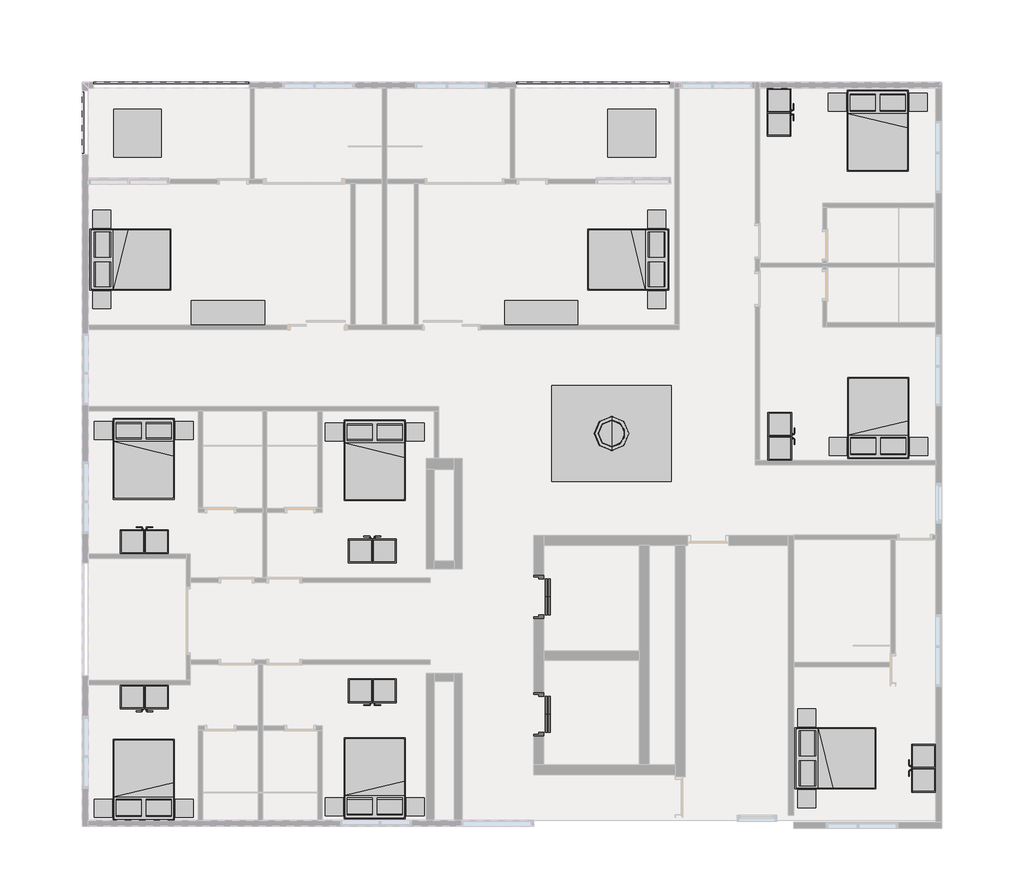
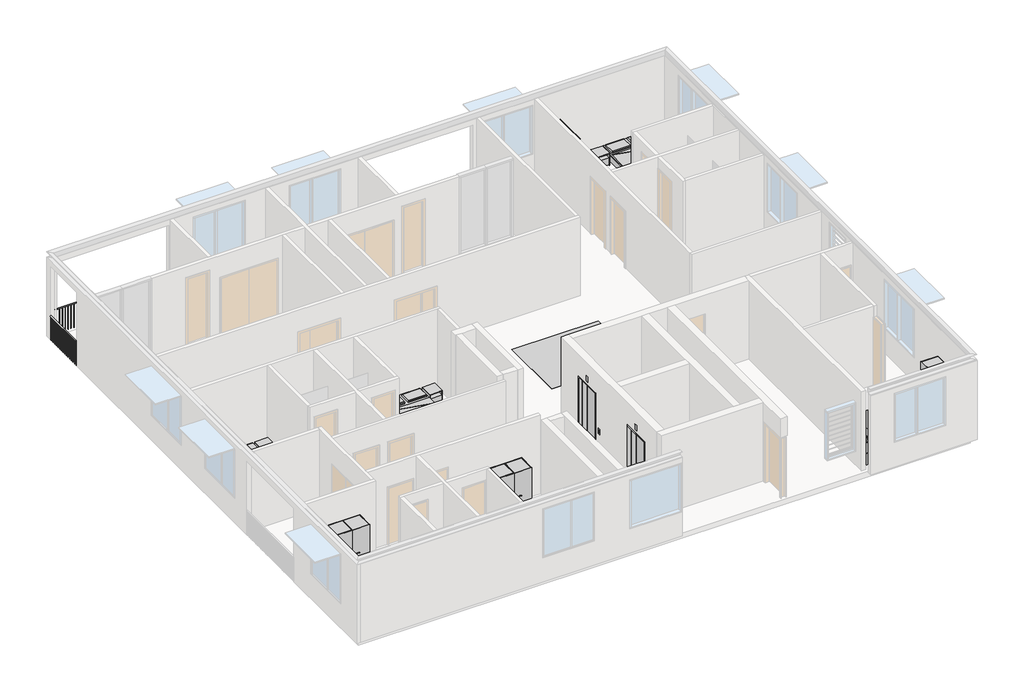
# One storey, part 4 of 4: 28 furniture elements, 3 proxies, 3 railings.
"""IFC4 building model written with IfcOpenShell, lengths in millimetres."""

from ifc_helpers import new_model, si_unit, point, frame, frame_2d, origin, place, context, project, spatial, polyline, circle_curve, trimmed, segment, composite_curve, outline, extrude, transform, mapped, element, save
from components import lift_single_entry_gen_type1_208d8e88, rug_fur1_2400_x_3000mm_db8768f6, bed_box_fur_1530_x_2030mm_queen_487b53cd, bed_box_fur_1530_x_2030mm_queen_ec8485ed, desk_fur_ff340581, desk_fur_fd993f29, laminated_tall_cupboard_wardrobe_6f0e5be1, laminated_tall_cupboard_wardrobe_5f220087, table_coffee_eames_fur1_table_coffee_eames_fur_7d2e3b92, table_dining_rectangular_fur_4_person_9b3b3c82, table_dining_rectangular_fur_4_person_000a98f8

model = new_model("IFC4")

# Units and contexts
model_context = context("Model", 3, world=origin())
ifc_project = project(units=[si_unit("LENGTHUNIT", "METRE", prefix="MILLI")], contexts=[model_context])

# Site, building, storey
site = spatial("IfcSite", under=ifc_project)
building = spatial("IfcBuilding", under=site)
storey = spatial("IfcBuildingStorey", under=building, Name="8階", Elevation=51600.0)

# Proxies
placement = place(None, origin())
lift_single_entry_gen_type1_shape = lift_single_entry_gen_type1_208d8e88(model_context)
element("IfcBuildingElementProxy", 1, Name="Lift_Single Entry_GEN : Type1", ObjectType="Lift_Single Entry_GEN : Type1", at=placement, inside=storey, context=model_context, shape_type="MappedRepresentation", body=[
    mapped(lift_single_entry_gen_type1_shape, transform((13819.6062665, 5591.0857154, 51600.0), x_axis=(0.0, 1.0, 0.0), y_axis=(-1.0, 0.0, 0.0), z_axis=(0.0, 0.0, 1.0))),
])
element("IfcBuildingElementProxy", 2, Name="Lift_Single Entry_GEN : Type1", ObjectType="Lift_Single Entry_GEN : Type1", at=placement, inside=storey, context=model_context, shape_type="MappedRepresentation", body=[
    mapped(lift_single_entry_gen_type1_shape, transform((13819.6062665, 2641.0857154, 51600.0), x_axis=(0.0, 1.0, 0.0), y_axis=(-1.0, 0.0, 0.0), z_axis=(0.0, 0.0, 1.0))),
])
rug_fur1_2400_x_3000mm_shape = rug_fur1_2400_x_3000mm_db8768f6(model_context)
element("IfcBuildingElementProxy", 3, Name="Rug_FUR1 : 2400 x 3000mm", ObjectType="Rug_FUR1 : 2400 x 3000mm", at=placement, inside=storey, context=model_context, shape_type="MappedRepresentation", body=[
    mapped(rug_fur1_2400_x_3000mm_shape, transform((15644.6062665, 9895.3578951, 51600.0), x_axis=(0.0, 1.0, 0.0), y_axis=(-1.0, 0.0, 0.0), z_axis=(0.0, 0.0, 1.0))),
])

# Furniture
bed_box_fur_1530_x_2030mm_queen_shape = bed_box_fur_1530_x_2030mm_queen_487b53cd(model_context)
element("IfcFurniture", 4, ObjectType="Bed_Box_FUR : 1530 x 2030mm - Queen", at=placement, inside=storey, context=model_context, shape_type="MappedRepresentation", body=[
    mapped(bed_box_fur_1530_x_2030mm_queen_shape, transform((4248.7581943, 968.7501271, 51600.0), x_axis=(-1.0, 0.0, 0.0), y_axis=(0.0, -1.0, 0.0), z_axis=(0.0, 0.0, 1.0))),
])
element("IfcFurniture", 5, ObjectType="Bed_Box_FUR : 1530 x 2030mm - Queen", at=placement, inside=storey, context=model_context, shape_type="MappedRepresentation", body=[
    mapped(bed_box_fur_1530_x_2030mm_queen_shape, transform((10038.7587255, 1005.7515333, 51600.0), x_axis=(-1.0, 0.0, 0.0), y_axis=(0.0, -1.0, 0.0), z_axis=(0.0, 0.0, 1.0))),
])
element("IfcFurniture", 6, ObjectType="Bed_Box_FUR : 1530 x 2030mm - Queen", at=placement, inside=storey, context=model_context, shape_type="MappedRepresentation", body=[
    mapped(bed_box_fur_1530_x_2030mm_queen_shape, transform((21026.6767583, 1401.0285824, 51600.0), x_axis=(0.0, 1.0, 0.0), y_axis=(-1.0, 0.0, 0.0), z_axis=(0.0, 0.0, 1.0))),
])
element("IfcFurniture", 7, ObjectType="Bed_Box_FUR : 1530 x 2030mm - Queen", at=placement, inside=storey, context=model_context, shape_type="MappedRepresentation", body=[
    mapped(bed_box_fur_1530_x_2030mm_queen_shape, transform((16299.036306, 14605.7451727, 51600.0), x_axis=(0.0, -1.0, 0.0), y_axis=(1.0, 0.0, 0.0), z_axis=(0.0, 0.0, 1.0))),
])
element("IfcFurniture", 8, ObjectType="Bed_Box_FUR : 1530 x 2030mm - Queen", at=placement, inside=storey, context=model_context, shape_type="MappedRepresentation", body=[
    mapped(bed_box_fur_1530_x_2030mm_queen_shape, transform((22678.5136874, 10052.6454067, 51600.0), x_axis=(-1.0, 0.0, 0.0), y_axis=(0.0, -1.0, 0.0), z_axis=(0.0, 0.0, 1.0))),
])
bed_box_fur_1530_x_2030mm_queen_2_shape = bed_box_fur_1530_x_2030mm_queen_ec8485ed(model_context)
element("IfcFurniture", 9, ObjectType="Bed_Box_FUR : 1530 x 2030mm - Queen", at=placement, inside=storey, context=model_context, shape_type="MappedRepresentation", body=[
    mapped(bed_box_fur_1530_x_2030mm_queen_2_shape, transform((4248.7581943, 9496.014285, 51600.0), x_axis=(-1.0, 0.0, 0.0), y_axis=(0.0, -1.0, 0.0), z_axis=(0.0, 0.0, 1.0))),
])
element("IfcFurniture", 10, ObjectType="Bed_Box_FUR : 1530 x 2030mm - Queen", at=placement, inside=storey, context=model_context, shape_type="MappedRepresentation", body=[
    mapped(bed_box_fur_1530_x_2030mm_queen_2_shape, transform((10038.7587255, 9459.0128788, 51600.0), x_axis=(-1.0, 0.0, 0.0), y_axis=(0.0, -1.0, 0.0), z_axis=(0.0, 0.0, 1.0))),
])
element("IfcFurniture", 11, ObjectType="Bed_Box_FUR : 1530 x 2030mm - Queen", at=placement, inside=storey, context=model_context, shape_type="MappedRepresentation", body=[
    mapped(bed_box_fur_1530_x_2030mm_queen_2_shape, transform((3340.1762271, 14605.7451727, 51600.0), x_axis=(0.0, -1.0, 0.0), y_axis=(1.0, 0.0, 0.0), z_axis=(0.0, 0.0, 1.0))),
])
element("IfcFurniture", 12, ObjectType="Bed_Box_FUR : 1530 x 2030mm - Queen", at=placement, inside=storey, context=model_context, shape_type="MappedRepresentation", body=[
    mapped(bed_box_fur_1530_x_2030mm_queen_2_shape, transform((22658.5136874, 17732.3603853, 51600.0), x_axis=(-1.0, 0.0, 0.0), y_axis=(0.0, -1.0, 0.0), z_axis=(0.0, 0.0, 1.0))),
])
desk_fur_shape = desk_fur_ff340581(model_context)
element("IfcFurniture", 13, ObjectType="Desk_FUR : 1800 x 600  mm 2", at=placement, inside=storey, context=model_context, shape_type="MappedRepresentation", body=[
    mapped(desk_fur_shape, transform((5257.6057353, 12538.8578951, 51600.0), x_axis=(1.0, 0.0, 0.0), y_axis=(0.0, 1.0, 0.0), z_axis=(0.0, 0.0, 1.0))),
])
desk_fur_2_shape = desk_fur_fd993f29(model_context)
element("IfcFurniture", 14, ObjectType="Desk_FUR : 1800 x 600  mm 2", at=placement, inside=storey, context=model_context, shape_type="MappedRepresentation", body=[
    mapped(desk_fur_2_shape, transform((14641.6067978, 12538.8578951, 51600.0), x_axis=(-1.0, 0.0, 0.0), y_axis=(0.0, -1.0, 0.0), z_axis=(0.0, 0.0, 1.0))),
])
laminated_tall_cupboard_wardrobe_shape = laminated_tall_cupboard_wardrobe_6f0e5be1(model_context)
element("IfcFurniture", 15, ObjectType="LAMINATED TALL CUPBOARD : WARDROBE", at=placement, inside=storey, context=model_context, shape_type="MappedRepresentation", body=[
    mapped(laminated_tall_cupboard_wardrobe_shape, transform((3579.9054088, 3586.2680774, 51600.0), x_axis=(1.0, 0.0, 0.0), y_axis=(0.0, 1.0, 0.0), z_axis=(0.0, 0.0, 1.0))),
])
element("IfcFurniture", 16, ObjectType="LAMINATED TALL CUPBOARD : WARDROBE", at=placement, inside=storey, context=model_context, shape_type="MappedRepresentation", body=[
    mapped(laminated_tall_cupboard_wardrobe_shape, transform((9298.7568253, 3739.689031, 51600.0), x_axis=(1.0, 0.0, 0.0), y_axis=(0.0, 1.0, 0.0), z_axis=(0.0, 0.0, 1.0))),
])
element("IfcFurniture", 17, ObjectType="LAMINATED TALL CUPBOARD : WARDROBE", at=placement, inside=storey, context=model_context, shape_type="MappedRepresentation", body=[
    mapped(laminated_tall_cupboard_wardrobe_shape, transform((4269.3060617, 6880.3166994, 51600.0), x_axis=(-1.0, 0.0, 0.0), y_axis=(0.0, -1.0, 0.0), z_axis=(0.0, 0.0, 1.0))),
])
element("IfcFurniture", 18, ObjectType="LAMINATED TALL CUPBOARD : WARDROBE", at=placement, inside=storey, context=model_context, shape_type="MappedRepresentation", body=[
    mapped(laminated_tall_cupboard_wardrobe_shape, transform((9988.1574782, 6646.8957458, 51600.0), x_axis=(-1.0, 0.0, 0.0), y_axis=(0.0, -1.0, 0.0), z_axis=(0.0, 0.0, 1.0))),
])
element("IfcFurniture", 19, ObjectType="LAMINATED TALL CUPBOARD : WARDROBE", at=placement, inside=storey, context=model_context, shape_type="MappedRepresentation", body=[
    mapped(laminated_tall_cupboard_wardrobe_shape, transform((23771.1599164, 1839.7003264, 51600.0), x_axis=(0.0, -1.0, 0.0), y_axis=(1.0, 0.0, 0.0), z_axis=(0.0, 0.0, 1.0))),
])
element("IfcFurniture", 20, ObjectType="LAMINATED TALL CUPBOARD : WARDROBE", at=placement, inside=storey, context=model_context, shape_type="MappedRepresentation", body=[
    mapped(laminated_tall_cupboard_wardrobe_shape, transform((19564.632003, 9480.3054656, 51600.0), x_axis=(0.0, 1.0, 0.0), y_axis=(-0.9999999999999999, 0.0, 0.0), z_axis=(0.0, 0.0, 0.9999999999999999))),
])
element("IfcFurniture", 21, ObjectType="LAMINATED TALL CUPBOARD : WARDROBE", at=placement, inside=storey, context=model_context, shape_type="MappedRepresentation", body=[
    mapped(laminated_tall_cupboard_wardrobe_shape, transform((19544.632003, 17615.2996736, 51600.0), x_axis=(0.0, 1.0, 0.0), y_axis=(-0.9999999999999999, 0.0, 0.0), z_axis=(0.0, 0.0, 0.9999999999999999))),
])
laminated_tall_cupboard_wardrobe_2_shape = laminated_tall_cupboard_wardrobe_5f220087(model_context)
element("IfcFurniture", 22, ObjectType="LAMINATED TALL CUPBOARD : WARDROBE", at=placement, inside=storey, context=model_context, shape_type="MappedRepresentation", body=[
    mapped(laminated_tall_cupboard_wardrobe_2_shape, transform((4269.3060617, 3586.2680774, 51600.0), x_axis=(-1.0, 0.0, 0.0), y_axis=(0.0, -1.0, 0.0), z_axis=(0.0, 0.0, 1.0))),
])
element("IfcFurniture", 23, ObjectType="LAMINATED TALL CUPBOARD : WARDROBE", at=placement, inside=storey, context=model_context, shape_type="MappedRepresentation", body=[
    mapped(laminated_tall_cupboard_wardrobe_2_shape, transform((9988.1574782, 3739.689031, 51600.0), x_axis=(-1.0, 0.0, 0.0), y_axis=(0.0, -1.0, 0.0), z_axis=(0.0, 0.0, 1.0))),
])
element("IfcFurniture", 24, ObjectType="LAMINATED TALL CUPBOARD : WARDROBE", at=placement, inside=storey, context=model_context, shape_type="MappedRepresentation", body=[
    mapped(laminated_tall_cupboard_wardrobe_2_shape, transform((3579.9054088, 6880.3166994, 51600.0), x_axis=(1.0, 0.0, 0.0), y_axis=(0.0, 1.0, 0.0), z_axis=(0.0, 0.0, 1.0))),
])
element("IfcFurniture", 25, ObjectType="LAMINATED TALL CUPBOARD : WARDROBE", at=placement, inside=storey, context=model_context, shape_type="MappedRepresentation", body=[
    mapped(laminated_tall_cupboard_wardrobe_2_shape, transform((9298.7568253, 6646.8957458, 51600.0), x_axis=(1.0, 0.0, 0.0), y_axis=(0.0, 1.0, 0.0), z_axis=(0.0, 0.0, 1.0))),
])
element("IfcFurniture", 26, ObjectType="LAMINATED TALL CUPBOARD : WARDROBE", at=placement, inside=storey, context=model_context, shape_type="MappedRepresentation", body=[
    mapped(laminated_tall_cupboard_wardrobe_2_shape, transform((23771.1599164, 1150.2996736, 51600.0), x_axis=(0.0, 1.0, 0.0), y_axis=(-1.0, 0.0, 0.0), z_axis=(0.0, 0.0, 1.0))),
])
element("IfcFurniture", 27, ObjectType="LAMINATED TALL CUPBOARD : WARDROBE", at=placement, inside=storey, context=model_context, shape_type="MappedRepresentation", body=[
    mapped(laminated_tall_cupboard_wardrobe_2_shape, transform((19564.632003, 10169.7061184, 51600.0), x_axis=(0.0, -1.0, 0.0), y_axis=(0.9999999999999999, 0.0, 0.0), z_axis=(0.0, 0.0, 0.9999999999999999))),
])
element("IfcFurniture", 28, ObjectType="LAMINATED TALL CUPBOARD : WARDROBE", at=placement, inside=storey, context=model_context, shape_type="MappedRepresentation", body=[
    mapped(laminated_tall_cupboard_wardrobe_2_shape, transform((19544.632003, 18304.7003264, 51600.0), x_axis=(0.0, -1.0, 0.0), y_axis=(0.9999999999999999, 0.0, 0.0), z_axis=(0.0, 0.0, 0.9999999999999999))),
])
table_coffee_eames_fur1_table_coffee_eames_fur_shape = table_coffee_eames_fur1_table_coffee_eames_fur_7d2e3b92(model_context)
element("IfcFurniture", 29, ObjectType="Table_Coffee_Eames_FUR1 : Table_Coffee_Eames_FUR", at=placement, inside=storey, context=model_context, shape_type="MappedRepresentation", body=[
    mapped(table_coffee_eames_fur1_table_coffee_eames_fur_shape, transform((15720.8373728, 9772.0450748, 51600.0), x_axis=(1.0, 0.0, 0.0), y_axis=(0.0, 1.0, 0.0), z_axis=(0.0, 0.0, 1.0))),
])
table_dining_rectangular_fur_4_person_shape = table_dining_rectangular_fur_4_person_9b3b3c82(model_context)
element("IfcFurniture", 30, ObjectType="Table_Dining_Rectangular_FUR : 4 Person", at=placement, inside=storey, context=model_context, shape_type="MappedRepresentation", body=[
    mapped(table_dining_rectangular_fur_4_person_shape, transform((3749.6645991, 17434.0898177, 51600.0), x_axis=(1.0, 0.0, 0.0), y_axis=(0.0, 1.0, 0.0), z_axis=(0.0, 0.0, 1.0))),
])
table_dining_rectangular_fur_4_person_2_shape = table_dining_rectangular_fur_4_person_000a98f8(model_context)
element("IfcFurniture", 31, ObjectType="Table_Dining_Rectangular_FUR : 4 Person", at=placement, inside=storey, context=model_context, shape_type="MappedRepresentation", body=[
    mapped(table_dining_rectangular_fur_4_person_2_shape, transform((16149.5479339, 17434.0898177, 51600.0), x_axis=(-1.0, 0.0, 0.0), y_axis=(0.0, -1.0, 0.0), z_axis=(0.0, 0.0, 1.0))),
])

# Railings
element("IfcRailing", 32, ObjectType="900mm", at=placement, inside=storey, context=model_context, shape_type="SweptSolid", body=[
    extrude(outline(composite_curve([segment(trimmed(circle_curve(frame_2d((18700.0, 52480.0)), 20.0), [point((18680.0, 52480.0))], [point((18720.0, 52480.0))], False, "CARTESIAN"), True, "CONTINUOUS"), segment(trimmed(circle_curve(frame_2d((18700.0, 52480.0)), 20.0), [point((18720.0, 52480.0))], [point((18680.0, 52480.0))], False, "CARTESIAN"), True, "CONTINUOUS")], self_intersect=False)), frame((2614.6057353, 0.0, 0.0), z_axis=(1.0, 0.0, 0.0), x_axis=(0.0, 1.0, 0.0)), (0.0, 0.0, 1.0), 3940.0588639),
    extrude(outline(polyline([(6509.6057353, 18695.0), (6509.6057353, 18705.0), (6519.6057353, 18705.0), (6519.6057353, 18695.0), (6509.6057353, 18695.0)])), frame((0.0, 0.0, 51600.0), z_axis=(0.0, 0.0, 1.0), x_axis=(1.0, 0.0, 0.0)), (0.0, 0.0, 1.0), 860.0),
    extrude(outline(polyline([(6409.6057353, 18695.0), (6409.6057353, 18705.0), (6419.6057353, 18705.0), (6419.6057353, 18695.0), (6409.6057353, 18695.0)])), frame((0.0, 0.0, 51600.0), z_axis=(0.0, 0.0, 1.0), x_axis=(1.0, 0.0, 0.0)), (0.0, 0.0, 1.0), 860.0),
    extrude(outline(polyline([(6309.6057353, 18695.0), (6309.6057353, 18705.0), (6319.6057353, 18705.0), (6319.6057353, 18695.0), (6309.6057353, 18695.0)])), frame((0.0, 0.0, 51600.0), z_axis=(0.0, 0.0, 1.0), x_axis=(1.0, 0.0, 0.0)), (0.0, 0.0, 1.0), 860.0),
    extrude(outline(polyline([(6209.6057353, 18695.0), (6209.6057353, 18705.0), (6219.6057353, 18705.0), (6219.6057353, 18695.0), (6209.6057353, 18695.0)])), frame((0.0, 0.0, 51600.0), z_axis=(0.0, 0.0, 1.0), x_axis=(1.0, 0.0, 0.0)), (0.0, 0.0, 1.0), 860.0),
    extrude(outline(polyline([(6109.6057353, 18695.0), (6109.6057353, 18705.0), (6119.6057353, 18705.0), (6119.6057353, 18695.0), (6109.6057353, 18695.0)])), frame((0.0, 0.0, 51600.0), z_axis=(0.0, 0.0, 1.0), x_axis=(1.0, 0.0, 0.0)), (0.0, 0.0, 1.0), 860.0),
    extrude(outline(polyline([(6009.6057353, 18695.0), (6009.6057353, 18705.0), (6019.6057353, 18705.0), (6019.6057353, 18695.0), (6009.6057353, 18695.0)])), frame((0.0, 0.0, 51600.0), z_axis=(0.0, 0.0, 1.0), x_axis=(1.0, 0.0, 0.0)), (0.0, 0.0, 1.0), 860.0),
    extrude(outline(polyline([(5909.6057353, 18695.0), (5909.6057353, 18705.0), (5919.6057353, 18705.0), (5919.6057353, 18695.0), (5909.6057353, 18695.0)])), frame((0.0, 0.0, 51600.0), z_axis=(0.0, 0.0, 1.0), x_axis=(1.0, 0.0, 0.0)), (0.0, 0.0, 1.0), 860.0),
    extrude(outline(polyline([(5809.6057353, 18695.0), (5809.6057353, 18705.0), (5819.6057353, 18705.0), (5819.6057353, 18695.0), (5809.6057353, 18695.0)])), frame((0.0, 0.0, 51600.0), z_axis=(0.0, 0.0, 1.0), x_axis=(1.0, 0.0, 0.0)), (0.0, 0.0, 1.0), 860.0),
    extrude(outline(polyline([(5709.6057353, 18695.0), (5709.6057353, 18705.0), (5719.6057353, 18705.0), (5719.6057353, 18695.0), (5709.6057353, 18695.0)])), frame((0.0, 0.0, 51600.0), z_axis=(0.0, 0.0, 1.0), x_axis=(1.0, 0.0, 0.0)), (0.0, 0.0, 1.0), 860.0),
    extrude(outline(polyline([(5609.6057353, 18695.0), (5609.6057353, 18705.0), (5619.6057353, 18705.0), (5619.6057353, 18695.0), (5609.6057353, 18695.0)])), frame((0.0, 0.0, 51600.0), z_axis=(0.0, 0.0, 1.0), x_axis=(1.0, 0.0, 0.0)), (0.0, 0.0, 1.0), 860.0),
    extrude(outline(polyline([(5509.6057353, 18695.0), (5509.6057353, 18705.0), (5519.6057353, 18705.0), (5519.6057353, 18695.0), (5509.6057353, 18695.0)])), frame((0.0, 0.0, 51600.0), z_axis=(0.0, 0.0, 1.0), x_axis=(1.0, 0.0, 0.0)), (0.0, 0.0, 1.0), 860.0),
    extrude(outline(polyline([(5409.6057353, 18695.0), (5409.6057353, 18705.0), (5419.6057353, 18705.0), (5419.6057353, 18695.0), (5409.6057353, 18695.0)])), frame((0.0, 0.0, 51600.0), z_axis=(0.0, 0.0, 1.0), x_axis=(1.0, 0.0, 0.0)), (0.0, 0.0, 1.0), 860.0),
    extrude(outline(polyline([(5309.6057353, 18695.0), (5309.6057353, 18705.0), (5319.6057353, 18705.0), (5319.6057353, 18695.0), (5309.6057353, 18695.0)])), frame((0.0, 0.0, 51600.0), z_axis=(0.0, 0.0, 1.0), x_axis=(1.0, 0.0, 0.0)), (0.0, 0.0, 1.0), 860.0),
    extrude(outline(polyline([(5209.6057353, 18695.0), (5209.6057353, 18705.0), (5219.6057353, 18705.0), (5219.6057353, 18695.0), (5209.6057353, 18695.0)])), frame((0.0, 0.0, 51600.0), z_axis=(0.0, 0.0, 1.0), x_axis=(1.0, 0.0, 0.0)), (0.0, 0.0, 1.0), 860.0),
    extrude(outline(polyline([(5109.6057353, 18695.0), (5109.6057353, 18705.0), (5119.6057353, 18705.0), (5119.6057353, 18695.0), (5109.6057353, 18695.0)])), frame((0.0, 0.0, 51600.0), z_axis=(0.0, 0.0, 1.0), x_axis=(1.0, 0.0, 0.0)), (0.0, 0.0, 1.0), 860.0),
    extrude(outline(polyline([(5009.6057353, 18695.0), (5009.6057353, 18705.0), (5019.6057353, 18705.0), (5019.6057353, 18695.0), (5009.6057353, 18695.0)])), frame((0.0, 0.0, 51600.0), z_axis=(0.0, 0.0, 1.0), x_axis=(1.0, 0.0, 0.0)), (0.0, 0.0, 1.0), 860.0),
    extrude(outline(polyline([(4909.6057353, 18695.0), (4909.6057353, 18705.0), (4919.6057353, 18705.0), (4919.6057353, 18695.0), (4909.6057353, 18695.0)])), frame((0.0, 0.0, 51600.0), z_axis=(0.0, 0.0, 1.0), x_axis=(1.0, 0.0, 0.0)), (0.0, 0.0, 1.0), 860.0),
    extrude(outline(polyline([(4809.6057353, 18695.0), (4809.6057353, 18705.0), (4819.6057353, 18705.0), (4819.6057353, 18695.0), (4809.6057353, 18695.0)])), frame((0.0, 0.0, 51600.0), z_axis=(0.0, 0.0, 1.0), x_axis=(1.0, 0.0, 0.0)), (0.0, 0.0, 1.0), 860.0),
    extrude(outline(polyline([(4709.6057353, 18695.0), (4709.6057353, 18705.0), (4719.6057353, 18705.0), (4719.6057353, 18695.0), (4709.6057353, 18695.0)])), frame((0.0, 0.0, 51600.0), z_axis=(0.0, 0.0, 1.0), x_axis=(1.0, 0.0, 0.0)), (0.0, 0.0, 1.0), 860.0),
    extrude(outline(polyline([(4609.6057353, 18695.0), (4609.6057353, 18705.0), (4619.6057353, 18705.0), (4619.6057353, 18695.0), (4609.6057353, 18695.0)])), frame((0.0, 0.0, 51600.0), z_axis=(0.0, 0.0, 1.0), x_axis=(1.0, 0.0, 0.0)), (0.0, 0.0, 1.0), 860.0),
    extrude(outline(polyline([(4509.6057353, 18695.0), (4509.6057353, 18705.0), (4519.6057353, 18705.0), (4519.6057353, 18695.0), (4509.6057353, 18695.0)])), frame((0.0, 0.0, 51600.0), z_axis=(0.0, 0.0, 1.0), x_axis=(1.0, 0.0, 0.0)), (0.0, 0.0, 1.0), 860.0),
    extrude(outline(polyline([(4409.6057353, 18695.0), (4409.6057353, 18705.0), (4419.6057353, 18705.0), (4419.6057353, 18695.0), (4409.6057353, 18695.0)])), frame((0.0, 0.0, 51600.0), z_axis=(0.0, 0.0, 1.0), x_axis=(1.0, 0.0, 0.0)), (0.0, 0.0, 1.0), 860.0),
    extrude(outline(polyline([(4309.6057353, 18695.0), (4309.6057353, 18705.0), (4319.6057353, 18705.0), (4319.6057353, 18695.0), (4309.6057353, 18695.0)])), frame((0.0, 0.0, 51600.0), z_axis=(0.0, 0.0, 1.0), x_axis=(1.0, 0.0, 0.0)), (0.0, 0.0, 1.0), 860.0),
    extrude(outline(polyline([(4209.6057353, 18695.0), (4209.6057353, 18705.0), (4219.6057353, 18705.0), (4219.6057353, 18695.0), (4209.6057353, 18695.0)])), frame((0.0, 0.0, 51600.0), z_axis=(0.0, 0.0, 1.0), x_axis=(1.0, 0.0, 0.0)), (0.0, 0.0, 1.0), 860.0),
    extrude(outline(polyline([(4109.6057353, 18695.0), (4109.6057353, 18705.0), (4119.6057353, 18705.0), (4119.6057353, 18695.0), (4109.6057353, 18695.0)])), frame((0.0, 0.0, 51600.0), z_axis=(0.0, 0.0, 1.0), x_axis=(1.0, 0.0, 0.0)), (0.0, 0.0, 1.0), 860.0),
    extrude(outline(polyline([(4009.6057353, 18695.0), (4009.6057353, 18705.0), (4019.6057353, 18705.0), (4019.6057353, 18695.0), (4009.6057353, 18695.0)])), frame((0.0, 0.0, 51600.0), z_axis=(0.0, 0.0, 1.0), x_axis=(1.0, 0.0, 0.0)), (0.0, 0.0, 1.0), 860.0),
    extrude(outline(polyline([(3909.6057353, 18695.0), (3909.6057353, 18705.0), (3919.6057353, 18705.0), (3919.6057353, 18695.0), (3909.6057353, 18695.0)])), frame((0.0, 0.0, 51600.0), z_axis=(0.0, 0.0, 1.0), x_axis=(1.0, 0.0, 0.0)), (0.0, 0.0, 1.0), 860.0),
    extrude(outline(polyline([(3809.6057353, 18695.0), (3809.6057353, 18705.0), (3819.6057353, 18705.0), (3819.6057353, 18695.0), (3809.6057353, 18695.0)])), frame((0.0, 0.0, 51600.0), z_axis=(0.0, 0.0, 1.0), x_axis=(1.0, 0.0, 0.0)), (0.0, 0.0, 1.0), 860.0),
    extrude(outline(polyline([(3709.6057353, 18695.0), (3709.6057353, 18705.0), (3719.6057353, 18705.0), (3719.6057353, 18695.0), (3709.6057353, 18695.0)])), frame((0.0, 0.0, 51600.0), z_axis=(0.0, 0.0, 1.0), x_axis=(1.0, 0.0, 0.0)), (0.0, 0.0, 1.0), 860.0),
    extrude(outline(polyline([(3609.6057353, 18695.0), (3609.6057353, 18705.0), (3619.6057353, 18705.0), (3619.6057353, 18695.0), (3609.6057353, 18695.0)])), frame((0.0, 0.0, 51600.0), z_axis=(0.0, 0.0, 1.0), x_axis=(1.0, 0.0, 0.0)), (0.0, 0.0, 1.0), 860.0),
    extrude(outline(polyline([(3509.6057353, 18695.0), (3509.6057353, 18705.0), (3519.6057353, 18705.0), (3519.6057353, 18695.0), (3509.6057353, 18695.0)])), frame((0.0, 0.0, 51600.0), z_axis=(0.0, 0.0, 1.0), x_axis=(1.0, 0.0, 0.0)), (0.0, 0.0, 1.0), 860.0),
    extrude(outline(polyline([(3409.6057353, 18695.0), (3409.6057353, 18705.0), (3419.6057353, 18705.0), (3419.6057353, 18695.0), (3409.6057353, 18695.0)])), frame((0.0, 0.0, 51600.0), z_axis=(0.0, 0.0, 1.0), x_axis=(1.0, 0.0, 0.0)), (0.0, 0.0, 1.0), 860.0),
    extrude(outline(polyline([(3309.6057353, 18695.0), (3309.6057353, 18705.0), (3319.6057353, 18705.0), (3319.6057353, 18695.0), (3309.6057353, 18695.0)])), frame((0.0, 0.0, 51600.0), z_axis=(0.0, 0.0, 1.0), x_axis=(1.0, 0.0, 0.0)), (0.0, 0.0, 1.0), 860.0),
    extrude(outline(polyline([(3209.6057353, 18695.0), (3209.6057353, 18705.0), (3219.6057353, 18705.0), (3219.6057353, 18695.0), (3209.6057353, 18695.0)])), frame((0.0, 0.0, 51600.0), z_axis=(0.0, 0.0, 1.0), x_axis=(1.0, 0.0, 0.0)), (0.0, 0.0, 1.0), 860.0),
    extrude(outline(polyline([(3109.6057353, 18695.0), (3109.6057353, 18705.0), (3119.6057353, 18705.0), (3119.6057353, 18695.0), (3109.6057353, 18695.0)])), frame((0.0, 0.0, 51600.0), z_axis=(0.0, 0.0, 1.0), x_axis=(1.0, 0.0, 0.0)), (0.0, 0.0, 1.0), 860.0),
    extrude(outline(polyline([(3009.6057353, 18695.0), (3009.6057353, 18705.0), (3019.6057353, 18705.0), (3019.6057353, 18695.0), (3009.6057353, 18695.0)])), frame((0.0, 0.0, 51600.0), z_axis=(0.0, 0.0, 1.0), x_axis=(1.0, 0.0, 0.0)), (0.0, 0.0, 1.0), 860.0),
    extrude(outline(polyline([(2909.6057353, 18695.0), (2909.6057353, 18705.0), (2919.6057353, 18705.0), (2919.6057353, 18695.0), (2909.6057353, 18695.0)])), frame((0.0, 0.0, 51600.0), z_axis=(0.0, 0.0, 1.0), x_axis=(1.0, 0.0, 0.0)), (0.0, 0.0, 1.0), 860.0),
    extrude(outline(polyline([(2809.6057353, 18695.0), (2809.6057353, 18705.0), (2819.6057353, 18705.0), (2819.6057353, 18695.0), (2809.6057353, 18695.0)])), frame((0.0, 0.0, 51600.0), z_axis=(0.0, 0.0, 1.0), x_axis=(1.0, 0.0, 0.0)), (0.0, 0.0, 1.0), 860.0),
    extrude(outline(polyline([(2709.6057353, 18695.0), (2709.6057353, 18705.0), (2719.6057353, 18705.0), (2719.6057353, 18695.0), (2709.6057353, 18695.0)])), frame((0.0, 0.0, 51600.0), z_axis=(0.0, 0.0, 1.0), x_axis=(1.0, 0.0, 0.0)), (0.0, 0.0, 1.0), 860.0),
    extrude(outline(polyline([(6539.6645991, 18695.0), (6539.6645991, 18705.0), (6549.6645991, 18705.0), (6549.6645991, 18695.0), (6539.6645991, 18695.0)])), frame((0.0, 0.0, 51600.0), z_axis=(0.0, 0.0, 1.0), x_axis=(1.0, 0.0, 0.0)), (0.0, 0.0, 1.0), 860.0),
    extrude(outline(polyline([(2619.6057353, 18695.0), (2619.6057353, 18705.0), (2629.6057353, 18705.0), (2629.6057353, 18695.0), (2619.6057353, 18695.0)])), frame((0.0, 0.0, 51600.0), z_axis=(0.0, 0.0, 1.0), x_axis=(1.0, 0.0, 0.0)), (0.0, 0.0, 1.0), 860.0),
])
element("IfcRailing", 33, ObjectType="900mm", at=placement, inside=storey, context=model_context, shape_type="SweptSolid", body=[
    extrude(outline(composite_curve([segment(trimmed(circle_curve(frame_2d((52480.0, 2379.6057353)), 20.0), [point((52480.0, 2399.6057353))], [point((52480.0, 2359.6057353))], False, "CARTESIAN"), True, "CONTINUOUS"), segment(trimmed(circle_curve(frame_2d((52480.0, 2379.6057353)), 20.0), [point((52480.0, 2359.6057353))], [point((52480.0, 2399.6057353))], False, "CARTESIAN"), True, "CONTINUOUS")], self_intersect=False)), frame((0.0, 16929.8875971, 0.0), z_axis=(0.0, 1.0, 0.0), x_axis=(0.0, 0.0, 1.0)), (0.0, 0.0, 1.0), 1535.1124029),
    extrude(outline(polyline([(2384.6057353, 18424.8875971), (2374.6057353, 18424.8875971), (2374.6057353, 18434.8875971), (2384.6057353, 18434.8875971), (2384.6057353, 18424.8875971)])), frame((0.0, 0.0, 51600.0), z_axis=(0.0, 0.0, 1.0), x_axis=(1.0, 0.0, 0.0)), (0.0, 0.0, 1.0), 860.0),
    extrude(outline(polyline([(2384.6057353, 18324.8875971), (2374.6057353, 18324.8875971), (2374.6057353, 18334.8875971), (2384.6057353, 18334.8875971), (2384.6057353, 18324.8875971)])), frame((0.0, 0.0, 51600.0), z_axis=(0.0, 0.0, 1.0), x_axis=(1.0, 0.0, 0.0)), (0.0, 0.0, 1.0), 860.0),
    extrude(outline(polyline([(2384.6057353, 18224.8875971), (2374.6057353, 18224.8875971), (2374.6057353, 18234.8875971), (2384.6057353, 18234.8875971), (2384.6057353, 18224.8875971)])), frame((0.0, 0.0, 51600.0), z_axis=(0.0, 0.0, 1.0), x_axis=(1.0, 0.0, 0.0)), (0.0, 0.0, 1.0), 860.0),
    extrude(outline(polyline([(2384.6057353, 18124.8875971), (2374.6057353, 18124.8875971), (2374.6057353, 18134.8875971), (2384.6057353, 18134.8875971), (2384.6057353, 18124.8875971)])), frame((0.0, 0.0, 51600.0), z_axis=(0.0, 0.0, 1.0), x_axis=(1.0, 0.0, 0.0)), (0.0, 0.0, 1.0), 860.0),
    extrude(outline(polyline([(2384.6057353, 18024.8875971), (2374.6057353, 18024.8875971), (2374.6057353, 18034.8875971), (2384.6057353, 18034.8875971), (2384.6057353, 18024.8875971)])), frame((0.0, 0.0, 51600.0), z_axis=(0.0, 0.0, 1.0), x_axis=(1.0, 0.0, 0.0)), (0.0, 0.0, 1.0), 860.0),
    extrude(outline(polyline([(2384.6057353, 17924.8875971), (2374.6057353, 17924.8875971), (2374.6057353, 17934.8875971), (2384.6057353, 17934.8875971), (2384.6057353, 17924.8875971)])), frame((0.0, 0.0, 51600.0), z_axis=(0.0, 0.0, 1.0), x_axis=(1.0, 0.0, 0.0)), (0.0, 0.0, 1.0), 860.0),
    extrude(outline(polyline([(2384.6057353, 17824.8875971), (2374.6057353, 17824.8875971), (2374.6057353, 17834.8875971), (2384.6057353, 17834.8875971), (2384.6057353, 17824.8875971)])), frame((0.0, 0.0, 51600.0), z_axis=(0.0, 0.0, 1.0), x_axis=(1.0, 0.0, 0.0)), (0.0, 0.0, 1.0), 860.0),
    extrude(outline(polyline([(2384.6057353, 17724.8875971), (2374.6057353, 17724.8875971), (2374.6057353, 17734.8875971), (2384.6057353, 17734.8875971), (2384.6057353, 17724.8875971)])), frame((0.0, 0.0, 51600.0), z_axis=(0.0, 0.0, 1.0), x_axis=(1.0, 0.0, 0.0)), (0.0, 0.0, 1.0), 860.0),
    extrude(outline(polyline([(2384.6057353, 17624.8875971), (2374.6057353, 17624.8875971), (2374.6057353, 17634.8875971), (2384.6057353, 17634.8875971), (2384.6057353, 17624.8875971)])), frame((0.0, 0.0, 51600.0), z_axis=(0.0, 0.0, 1.0), x_axis=(1.0, 0.0, 0.0)), (0.0, 0.0, 1.0), 860.0),
    extrude(outline(polyline([(2384.6057353, 17524.8875971), (2374.6057353, 17524.8875971), (2374.6057353, 17534.8875971), (2384.6057353, 17534.8875971), (2384.6057353, 17524.8875971)])), frame((0.0, 0.0, 51600.0), z_axis=(0.0, 0.0, 1.0), x_axis=(1.0, 0.0, 0.0)), (0.0, 0.0, 1.0), 860.0),
    extrude(outline(polyline([(2384.6057353, 17424.8875971), (2374.6057353, 17424.8875971), (2374.6057353, 17434.8875971), (2384.6057353, 17434.8875971), (2384.6057353, 17424.8875971)])), frame((0.0, 0.0, 51600.0), z_axis=(0.0, 0.0, 1.0), x_axis=(1.0, 0.0, 0.0)), (0.0, 0.0, 1.0), 860.0),
    extrude(outline(polyline([(2384.6057353, 17324.8875971), (2374.6057353, 17324.8875971), (2374.6057353, 17334.8875971), (2384.6057353, 17334.8875971), (2384.6057353, 17324.8875971)])), frame((0.0, 0.0, 51600.0), z_axis=(0.0, 0.0, 1.0), x_axis=(1.0, 0.0, 0.0)), (0.0, 0.0, 1.0), 860.0),
    extrude(outline(polyline([(2384.6057353, 17224.8875971), (2374.6057353, 17224.8875971), (2374.6057353, 17234.8875971), (2384.6057353, 17234.8875971), (2384.6057353, 17224.8875971)])), frame((0.0, 0.0, 51600.0), z_axis=(0.0, 0.0, 1.0), x_axis=(1.0, 0.0, 0.0)), (0.0, 0.0, 1.0), 860.0),
    extrude(outline(polyline([(2384.6057353, 17124.8875971), (2374.6057353, 17124.8875971), (2374.6057353, 17134.8875971), (2384.6057353, 17134.8875971), (2384.6057353, 17124.8875971)])), frame((0.0, 0.0, 51600.0), z_axis=(0.0, 0.0, 1.0), x_axis=(1.0, 0.0, 0.0)), (0.0, 0.0, 1.0), 860.0),
    extrude(outline(polyline([(2384.6057353, 17024.8875971), (2374.6057353, 17024.8875971), (2374.6057353, 17034.8875971), (2384.6057353, 17034.8875971), (2384.6057353, 17024.8875971)])), frame((0.0, 0.0, 51600.0), z_axis=(0.0, 0.0, 1.0), x_axis=(1.0, 0.0, 0.0)), (0.0, 0.0, 1.0), 860.0),
    extrude(outline(polyline([(2384.6057353, 18450.0), (2374.6057353, 18450.0), (2374.6057353, 18460.0), (2384.6057353, 18460.0), (2384.6057353, 18450.0)])), frame((0.0, 0.0, 51600.0), z_axis=(0.0, 0.0, 1.0), x_axis=(1.0, 0.0, 0.0)), (0.0, 0.0, 1.0), 860.0),
    extrude(outline(polyline([(2384.6057353, 16934.8875971), (2374.6057353, 16934.8875971), (2374.6057353, 16944.8875971), (2384.6057353, 16944.8875971), (2384.6057353, 16934.8875971)])), frame((0.0, 0.0, 51600.0), z_axis=(0.0, 0.0, 1.0), x_axis=(1.0, 0.0, 0.0)), (0.0, 0.0, 1.0), 860.0),
])
element("IfcRailing", 34, ObjectType="900mm", at=placement, inside=storey, context=model_context, shape_type="SweptSolid", body=[
    extrude(outline(composite_curve([segment(trimmed(circle_curve(frame_2d((18700.0, 52480.0)), 20.0), [point((18680.0, 52480.0))], [point((18720.0, 52480.0))], False, "CARTESIAN"), True, "CONTINUOUS"), segment(trimmed(circle_curve(frame_2d((18700.0, 52480.0)), 20.0), [point((18720.0, 52480.0))], [point((18680.0, 52480.0))], False, "CARTESIAN"), True, "CONTINUOUS")], self_intersect=False)), frame((13253.9954006, 0.0, 0.0), z_axis=(1.0, 0.0, 0.0), x_axis=(0.0, 1.0, 0.0)), (0.0, 0.0, 1.0), 3845.45),
    extrude(outline(polyline([(17048.9954006, 18695.0), (17048.9954006, 18705.0), (17058.9954006, 18705.0), (17058.9954006, 18695.0), (17048.9954006, 18695.0)])), frame((0.0, 0.0, 51600.0), z_axis=(0.0, 0.0, 1.0), x_axis=(1.0, 0.0, 0.0)), (0.0, 0.0, 1.0), 860.0),
    extrude(outline(polyline([(16948.9954006, 18695.0), (16948.9954006, 18705.0), (16958.9954006, 18705.0), (16958.9954006, 18695.0), (16948.9954006, 18695.0)])), frame((0.0, 0.0, 51600.0), z_axis=(0.0, 0.0, 1.0), x_axis=(1.0, 0.0, 0.0)), (0.0, 0.0, 1.0), 860.0),
    extrude(outline(polyline([(16848.9954006, 18695.0), (16848.9954006, 18705.0), (16858.9954006, 18705.0), (16858.9954006, 18695.0), (16848.9954006, 18695.0)])), frame((0.0, 0.0, 51600.0), z_axis=(0.0, 0.0, 1.0), x_axis=(1.0, 0.0, 0.0)), (0.0, 0.0, 1.0), 860.0),
    extrude(outline(polyline([(16748.9954006, 18695.0), (16748.9954006, 18705.0), (16758.9954006, 18705.0), (16758.9954006, 18695.0), (16748.9954006, 18695.0)])), frame((0.0, 0.0, 51600.0), z_axis=(0.0, 0.0, 1.0), x_axis=(1.0, 0.0, 0.0)), (0.0, 0.0, 1.0), 860.0),
    extrude(outline(polyline([(16648.9954006, 18695.0), (16648.9954006, 18705.0), (16658.9954006, 18705.0), (16658.9954006, 18695.0), (16648.9954006, 18695.0)])), frame((0.0, 0.0, 51600.0), z_axis=(0.0, 0.0, 1.0), x_axis=(1.0, 0.0, 0.0)), (0.0, 0.0, 1.0), 860.0),
    extrude(outline(polyline([(16548.9954006, 18695.0), (16548.9954006, 18705.0), (16558.9954006, 18705.0), (16558.9954006, 18695.0), (16548.9954006, 18695.0)])), frame((0.0, 0.0, 51600.0), z_axis=(0.0, 0.0, 1.0), x_axis=(1.0, 0.0, 0.0)), (0.0, 0.0, 1.0), 860.0),
    extrude(outline(polyline([(16448.9954006, 18695.0), (16448.9954006, 18705.0), (16458.9954006, 18705.0), (16458.9954006, 18695.0), (16448.9954006, 18695.0)])), frame((0.0, 0.0, 51600.0), z_axis=(0.0, 0.0, 1.0), x_axis=(1.0, 0.0, 0.0)), (0.0, 0.0, 1.0), 860.0),
    extrude(outline(polyline([(16348.9954006, 18695.0), (16348.9954006, 18705.0), (16358.9954006, 18705.0), (16358.9954006, 18695.0), (16348.9954006, 18695.0)])), frame((0.0, 0.0, 51600.0), z_axis=(0.0, 0.0, 1.0), x_axis=(1.0, 0.0, 0.0)), (0.0, 0.0, 1.0), 860.0),
    extrude(outline(polyline([(16248.9954006, 18695.0), (16248.9954006, 18705.0), (16258.9954006, 18705.0), (16258.9954006, 18695.0), (16248.9954006, 18695.0)])), frame((0.0, 0.0, 51600.0), z_axis=(0.0, 0.0, 1.0), x_axis=(1.0, 0.0, 0.0)), (0.0, 0.0, 1.0), 860.0),
    extrude(outline(polyline([(16148.9954006, 18695.0), (16148.9954006, 18705.0), (16158.9954006, 18705.0), (16158.9954006, 18695.0), (16148.9954006, 18695.0)])), frame((0.0, 0.0, 51600.0), z_axis=(0.0, 0.0, 1.0), x_axis=(1.0, 0.0, 0.0)), (0.0, 0.0, 1.0), 860.0),
    extrude(outline(polyline([(16048.9954006, 18695.0), (16048.9954006, 18705.0), (16058.9954006, 18705.0), (16058.9954006, 18695.0), (16048.9954006, 18695.0)])), frame((0.0, 0.0, 51600.0), z_axis=(0.0, 0.0, 1.0), x_axis=(1.0, 0.0, 0.0)), (0.0, 0.0, 1.0), 860.0),
    extrude(outline(polyline([(15948.9954006, 18695.0), (15948.9954006, 18705.0), (15958.9954006, 18705.0), (15958.9954006, 18695.0), (15948.9954006, 18695.0)])), frame((0.0, 0.0, 51600.0), z_axis=(0.0, 0.0, 1.0), x_axis=(1.0, 0.0, 0.0)), (0.0, 0.0, 1.0), 860.0),
    extrude(outline(polyline([(15848.9954006, 18695.0), (15848.9954006, 18705.0), (15858.9954006, 18705.0), (15858.9954006, 18695.0), (15848.9954006, 18695.0)])), frame((0.0, 0.0, 51600.0), z_axis=(0.0, 0.0, 1.0), x_axis=(1.0, 0.0, 0.0)), (0.0, 0.0, 1.0), 860.0),
    extrude(outline(polyline([(15748.9954006, 18695.0), (15748.9954006, 18705.0), (15758.9954006, 18705.0), (15758.9954006, 18695.0), (15748.9954006, 18695.0)])), frame((0.0, 0.0, 51600.0), z_axis=(0.0, 0.0, 1.0), x_axis=(1.0, 0.0, 0.0)), (0.0, 0.0, 1.0), 860.0),
    extrude(outline(polyline([(15648.9954006, 18695.0), (15648.9954006, 18705.0), (15658.9954006, 18705.0), (15658.9954006, 18695.0), (15648.9954006, 18695.0)])), frame((0.0, 0.0, 51600.0), z_axis=(0.0, 0.0, 1.0), x_axis=(1.0, 0.0, 0.0)), (0.0, 0.0, 1.0), 860.0),
    extrude(outline(polyline([(15548.9954006, 18695.0), (15548.9954006, 18705.0), (15558.9954006, 18705.0), (15558.9954006, 18695.0), (15548.9954006, 18695.0)])), frame((0.0, 0.0, 51600.0), z_axis=(0.0, 0.0, 1.0), x_axis=(1.0, 0.0, 0.0)), (0.0, 0.0, 1.0), 860.0),
    extrude(outline(polyline([(15448.9954006, 18695.0), (15448.9954006, 18705.0), (15458.9954006, 18705.0), (15458.9954006, 18695.0), (15448.9954006, 18695.0)])), frame((0.0, 0.0, 51600.0), z_axis=(0.0, 0.0, 1.0), x_axis=(1.0, 0.0, 0.0)), (0.0, 0.0, 1.0), 860.0),
    extrude(outline(polyline([(15348.9954006, 18695.0), (15348.9954006, 18705.0), (15358.9954006, 18705.0), (15358.9954006, 18695.0), (15348.9954006, 18695.0)])), frame((0.0, 0.0, 51600.0), z_axis=(0.0, 0.0, 1.0), x_axis=(1.0, 0.0, 0.0)), (0.0, 0.0, 1.0), 860.0),
    extrude(outline(polyline([(15248.9954006, 18695.0), (15248.9954006, 18705.0), (15258.9954006, 18705.0), (15258.9954006, 18695.0), (15248.9954006, 18695.0)])), frame((0.0, 0.0, 51600.0), z_axis=(0.0, 0.0, 1.0), x_axis=(1.0, 0.0, 0.0)), (0.0, 0.0, 1.0), 860.0),
    extrude(outline(polyline([(15148.9954006, 18695.0), (15148.9954006, 18705.0), (15158.9954006, 18705.0), (15158.9954006, 18695.0), (15148.9954006, 18695.0)])), frame((0.0, 0.0, 51600.0), z_axis=(0.0, 0.0, 1.0), x_axis=(1.0, 0.0, 0.0)), (0.0, 0.0, 1.0), 860.0),
    extrude(outline(polyline([(15048.9954006, 18695.0), (15048.9954006, 18705.0), (15058.9954006, 18705.0), (15058.9954006, 18695.0), (15048.9954006, 18695.0)])), frame((0.0, 0.0, 51600.0), z_axis=(0.0, 0.0, 1.0), x_axis=(1.0, 0.0, 0.0)), (0.0, 0.0, 1.0), 860.0),
    extrude(outline(polyline([(14948.9954006, 18695.0), (14948.9954006, 18705.0), (14958.9954006, 18705.0), (14958.9954006, 18695.0), (14948.9954006, 18695.0)])), frame((0.0, 0.0, 51600.0), z_axis=(0.0, 0.0, 1.0), x_axis=(1.0, 0.0, 0.0)), (0.0, 0.0, 1.0), 860.0),
    extrude(outline(polyline([(14848.9954006, 18695.0), (14848.9954006, 18705.0), (14858.9954006, 18705.0), (14858.9954006, 18695.0), (14848.9954006, 18695.0)])), frame((0.0, 0.0, 51600.0), z_axis=(0.0, 0.0, 1.0), x_axis=(1.0, 0.0, 0.0)), (0.0, 0.0, 1.0), 860.0),
    extrude(outline(polyline([(14748.9954006, 18695.0), (14748.9954006, 18705.0), (14758.9954006, 18705.0), (14758.9954006, 18695.0), (14748.9954006, 18695.0)])), frame((0.0, 0.0, 51600.0), z_axis=(0.0, 0.0, 1.0), x_axis=(1.0, 0.0, 0.0)), (0.0, 0.0, 1.0), 860.0),
    extrude(outline(polyline([(14648.9954006, 18695.0), (14648.9954006, 18705.0), (14658.9954006, 18705.0), (14658.9954006, 18695.0), (14648.9954006, 18695.0)])), frame((0.0, 0.0, 51600.0), z_axis=(0.0, 0.0, 1.0), x_axis=(1.0, 0.0, 0.0)), (0.0, 0.0, 1.0), 860.0),
    extrude(outline(polyline([(14548.9954006, 18695.0), (14548.9954006, 18705.0), (14558.9954006, 18705.0), (14558.9954006, 18695.0), (14548.9954006, 18695.0)])), frame((0.0, 0.0, 51600.0), z_axis=(0.0, 0.0, 1.0), x_axis=(1.0, 0.0, 0.0)), (0.0, 0.0, 1.0), 860.0),
    extrude(outline(polyline([(14448.9954006, 18695.0), (14448.9954006, 18705.0), (14458.9954006, 18705.0), (14458.9954006, 18695.0), (14448.9954006, 18695.0)])), frame((0.0, 0.0, 51600.0), z_axis=(0.0, 0.0, 1.0), x_axis=(1.0, 0.0, 0.0)), (0.0, 0.0, 1.0), 860.0),
    extrude(outline(polyline([(14348.9954006, 18695.0), (14348.9954006, 18705.0), (14358.9954006, 18705.0), (14358.9954006, 18695.0), (14348.9954006, 18695.0)])), frame((0.0, 0.0, 51600.0), z_axis=(0.0, 0.0, 1.0), x_axis=(1.0, 0.0, 0.0)), (0.0, 0.0, 1.0), 860.0),
    extrude(outline(polyline([(14248.9954006, 18695.0), (14248.9954006, 18705.0), (14258.9954006, 18705.0), (14258.9954006, 18695.0), (14248.9954006, 18695.0)])), frame((0.0, 0.0, 51600.0), z_axis=(0.0, 0.0, 1.0), x_axis=(1.0, 0.0, 0.0)), (0.0, 0.0, 1.0), 860.0),
    extrude(outline(polyline([(14148.9954006, 18695.0), (14148.9954006, 18705.0), (14158.9954006, 18705.0), (14158.9954006, 18695.0), (14148.9954006, 18695.0)])), frame((0.0, 0.0, 51600.0), z_axis=(0.0, 0.0, 1.0), x_axis=(1.0, 0.0, 0.0)), (0.0, 0.0, 1.0), 860.0),
    extrude(outline(polyline([(14048.9954006, 18695.0), (14048.9954006, 18705.0), (14058.9954006, 18705.0), (14058.9954006, 18695.0), (14048.9954006, 18695.0)])), frame((0.0, 0.0, 51600.0), z_axis=(0.0, 0.0, 1.0), x_axis=(1.0, 0.0, 0.0)), (0.0, 0.0, 1.0), 860.0),
    extrude(outline(polyline([(13948.9954006, 18695.0), (13948.9954006, 18705.0), (13958.9954006, 18705.0), (13958.9954006, 18695.0), (13948.9954006, 18695.0)])), frame((0.0, 0.0, 51600.0), z_axis=(0.0, 0.0, 1.0), x_axis=(1.0, 0.0, 0.0)), (0.0, 0.0, 1.0), 860.0),
    extrude(outline(polyline([(13848.9954006, 18695.0), (13848.9954006, 18705.0), (13858.9954006, 18705.0), (13858.9954006, 18695.0), (13848.9954006, 18695.0)])), frame((0.0, 0.0, 51600.0), z_axis=(0.0, 0.0, 1.0), x_axis=(1.0, 0.0, 0.0)), (0.0, 0.0, 1.0), 860.0),
    extrude(outline(polyline([(13748.9954006, 18695.0), (13748.9954006, 18705.0), (13758.9954006, 18705.0), (13758.9954006, 18695.0), (13748.9954006, 18695.0)])), frame((0.0, 0.0, 51600.0), z_axis=(0.0, 0.0, 1.0), x_axis=(1.0, 0.0, 0.0)), (0.0, 0.0, 1.0), 860.0),
    extrude(outline(polyline([(13648.9954006, 18695.0), (13648.9954006, 18705.0), (13658.9954006, 18705.0), (13658.9954006, 18695.0), (13648.9954006, 18695.0)])), frame((0.0, 0.0, 51600.0), z_axis=(0.0, 0.0, 1.0), x_axis=(1.0, 0.0, 0.0)), (0.0, 0.0, 1.0), 860.0),
    extrude(outline(polyline([(13548.9954006, 18695.0), (13548.9954006, 18705.0), (13558.9954006, 18705.0), (13558.9954006, 18695.0), (13548.9954006, 18695.0)])), frame((0.0, 0.0, 51600.0), z_axis=(0.0, 0.0, 1.0), x_axis=(1.0, 0.0, 0.0)), (0.0, 0.0, 1.0), 860.0),
    extrude(outline(polyline([(13448.9954006, 18695.0), (13448.9954006, 18705.0), (13458.9954006, 18705.0), (13458.9954006, 18695.0), (13448.9954006, 18695.0)])), frame((0.0, 0.0, 51600.0), z_axis=(0.0, 0.0, 1.0), x_axis=(1.0, 0.0, 0.0)), (0.0, 0.0, 1.0), 860.0),
    extrude(outline(polyline([(13348.9954006, 18695.0), (13348.9954006, 18705.0), (13358.9954006, 18705.0), (13358.9954006, 18695.0), (13348.9954006, 18695.0)])), frame((0.0, 0.0, 51600.0), z_axis=(0.0, 0.0, 1.0), x_axis=(1.0, 0.0, 0.0)), (0.0, 0.0, 1.0), 860.0),
    extrude(outline(polyline([(17084.4454006, 18695.0), (17084.4454006, 18705.0), (17094.4454006, 18705.0), (17094.4454006, 18695.0), (17084.4454006, 18695.0)])), frame((0.0, 0.0, 51600.0), z_axis=(0.0, 0.0, 1.0), x_axis=(1.0, 0.0, 0.0)), (0.0, 0.0, 1.0), 860.0),
    extrude(outline(polyline([(13258.9954006, 18695.0), (13258.9954006, 18705.0), (13268.9954006, 18705.0), (13268.9954006, 18695.0), (13258.9954006, 18695.0)])), frame((0.0, 0.0, 51600.0), z_axis=(0.0, 0.0, 1.0), x_axis=(1.0, 0.0, 0.0)), (0.0, 0.0, 1.0), 860.0),
])

save(model, "model.ifc")
